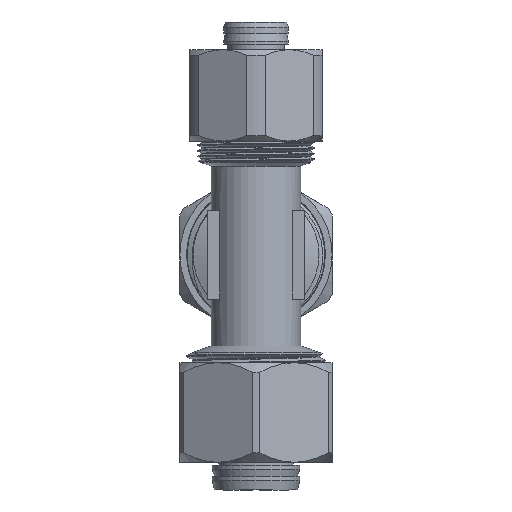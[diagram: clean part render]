
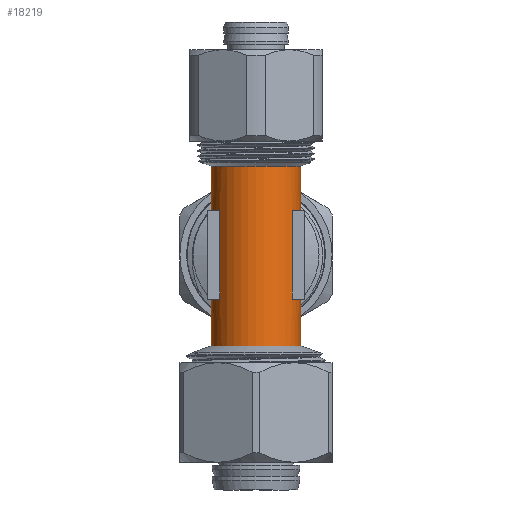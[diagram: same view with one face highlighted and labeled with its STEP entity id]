
A CAD part, front view. The second image highlights one B-rep face of the part: STEP entity #18219.
In plain terms, the highlighted cylindrical face has radius 8.1 mm (diameter 16.2 mm), a full revolution.
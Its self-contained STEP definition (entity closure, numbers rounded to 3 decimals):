
#183=ELLIPSE('',#19452,11.455,8.1);
#184=ELLIPSE('',#19453,11.455,8.1);
#185=ELLIPSE('',#19456,11.455,8.1);
#186=ELLIPSE('',#19457,11.455,8.1);
#2325=CYLINDRICAL_SURFACE('',#19451,8.1);
#2551=FACE_OUTER_BOUND('',#3611,.T.);
#3611=EDGE_LOOP('',(#12663,#12664,#12665,#12666,#12667,#12668,#12669,#12670,
#12671,#12672,#12673,#12674,#12675,#12676,#12677,#12678,#12679,#12680,#12681,
#12682,#12683,#12684,#12685,#12686));
#4803=LINE('',#24165,#5948);
#4807=LINE('',#24174,#5952);
#4815=LINE('',#24194,#5960);
#4818=LINE('',#24200,#5963);
#4825=LINE('',#24218,#5970);
#4828=LINE('',#24226,#5973);
#4847=LINE('',#24289,#5992);
#4848=LINE('',#24294,#5993);
#5948=VECTOR('',#20667,10.);
#5952=VECTOR('',#20673,10.);
#5960=VECTOR('',#20691,10.);
#5963=VECTOR('',#20696,10.);
#5970=VECTOR('',#20713,10.);
#5973=VECTOR('',#20720,10.);
#5992=VECTOR('',#20785,8.1);
#5993=VECTOR('',#20790,8.1);
#6997=CIRCLE('',#19362,8.1);
#6998=CIRCLE('',#19363,8.1);
#7012=CIRCLE('',#19417,8.1);
#7013=CIRCLE('',#19419,8.1);
#7014=CIRCLE('',#19423,8.1);
#7015=CIRCLE('',#19425,8.1);
#7018=CIRCLE('',#19431,8.1);
#7019=CIRCLE('',#19433,8.1);
#7026=CIRCLE('',#19454,8.1);
#7027=CIRCLE('',#19455,8.1);
#7483=VERTEX_POINT('',#23797);
#7484=VERTEX_POINT('',#23799);
#7570=VERTEX_POINT('',#24163);
#7571=VERTEX_POINT('',#24164);
#7574=VERTEX_POINT('',#24172);
#7575=VERTEX_POINT('',#24173);
#7578=VERTEX_POINT('',#24181);
#7580=VERTEX_POINT('',#24187);
#7582=VERTEX_POINT('',#24193);
#7584=VERTEX_POINT('',#24199);
#7586=VERTEX_POINT('',#24205);
#7588=VERTEX_POINT('',#24211);
#7590=VERTEX_POINT('',#24217);
#7593=VERTEX_POINT('',#24225);
#7596=VERTEX_POINT('',#24233);
#7599=VERTEX_POINT('',#24241);
#7614=VERTEX_POINT('',#24288);
#7615=VERTEX_POINT('',#24291);
#7616=VERTEX_POINT('',#24293);
#7617=VERTEX_POINT('',#24295);
#9428=EDGE_CURVE('',#7483,#7484,#6997,.T.);
#9429=EDGE_CURVE('',#7484,#7483,#6998,.T.);
#9556=EDGE_CURVE('',#7570,#7571,#4803,.T.);
#9560=EDGE_CURVE('',#7574,#7575,#4807,.T.);
#9564=EDGE_CURVE('',#7578,#7570,#7012,.T.);
#9567=EDGE_CURVE('',#7575,#7580,#7013,.T.);
#9570=EDGE_CURVE('',#7582,#7578,#4815,.T.);
#9573=EDGE_CURVE('',#7580,#7584,#4818,.T.);
#9576=EDGE_CURVE('',#7586,#7582,#7014,.T.);
#9579=EDGE_CURVE('',#7584,#7588,#7015,.T.);
#9582=EDGE_CURVE('',#7590,#7586,#4825,.T.);
#9586=EDGE_CURVE('',#7588,#7593,#4828,.T.);
#9590=EDGE_CURVE('',#7596,#7574,#7018,.T.);
#9594=EDGE_CURVE('',#7571,#7599,#7019,.T.);
#9618=EDGE_CURVE('',#7483,#7614,#4847,.T.);
#9619=EDGE_CURVE('',#7614,#7590,#183,.T.);
#9620=EDGE_CURVE('',#7599,#7615,#184,.T.);
#9621=EDGE_CURVE('',#7615,#7616,#4848,.T.);
#9622=EDGE_CURVE('',#7616,#7617,#7026,.T.);
#9623=EDGE_CURVE('',#7617,#7616,#7027,.T.);
#9624=EDGE_CURVE('',#7615,#7596,#185,.T.);
#9625=EDGE_CURVE('',#7593,#7614,#186,.T.);
#12663=ORIENTED_EDGE('',*,*,#9429,.F.);
#12664=ORIENTED_EDGE('',*,*,#9428,.F.);
#12665=ORIENTED_EDGE('',*,*,#9618,.T.);
#12666=ORIENTED_EDGE('',*,*,#9619,.T.);
#12667=ORIENTED_EDGE('',*,*,#9582,.T.);
#12668=ORIENTED_EDGE('',*,*,#9576,.T.);
#12669=ORIENTED_EDGE('',*,*,#9570,.T.);
#12670=ORIENTED_EDGE('',*,*,#9564,.T.);
#12671=ORIENTED_EDGE('',*,*,#9556,.T.);
#12672=ORIENTED_EDGE('',*,*,#9594,.T.);
#12673=ORIENTED_EDGE('',*,*,#9620,.T.);
#12674=ORIENTED_EDGE('',*,*,#9621,.T.);
#12675=ORIENTED_EDGE('',*,*,#9622,.T.);
#12676=ORIENTED_EDGE('',*,*,#9623,.T.);
#12677=ORIENTED_EDGE('',*,*,#9621,.F.);
#12678=ORIENTED_EDGE('',*,*,#9624,.T.);
#12679=ORIENTED_EDGE('',*,*,#9590,.T.);
#12680=ORIENTED_EDGE('',*,*,#9560,.T.);
#12681=ORIENTED_EDGE('',*,*,#9567,.T.);
#12682=ORIENTED_EDGE('',*,*,#9573,.T.);
#12683=ORIENTED_EDGE('',*,*,#9579,.T.);
#12684=ORIENTED_EDGE('',*,*,#9586,.T.);
#12685=ORIENTED_EDGE('',*,*,#9625,.T.);
#12686=ORIENTED_EDGE('',*,*,#9618,.F.);
#18219=ADVANCED_FACE('',(#2551),#2325,.T.);
#19362=AXIS2_PLACEMENT_3D('',#23800,#20464,#20465);
#19363=AXIS2_PLACEMENT_3D('',#23801,#20466,#20467);
#19417=AXIS2_PLACEMENT_3D('',#24182,#20679,#20680);
#19419=AXIS2_PLACEMENT_3D('',#24188,#20685,#20686);
#19423=AXIS2_PLACEMENT_3D('',#24206,#20701,#20702);
#19425=AXIS2_PLACEMENT_3D('',#24212,#20707,#20708);
#19431=AXIS2_PLACEMENT_3D('',#24234,#20727,#20728);
#19433=AXIS2_PLACEMENT_3D('',#24242,#20734,#20735);
#19451=AXIS2_PLACEMENT_3D('',#24287,#20783,#20784);
#19452=AXIS2_PLACEMENT_3D('',#24290,#20786,#20787);
#19453=AXIS2_PLACEMENT_3D('',#24292,#20788,#20789);
#19454=AXIS2_PLACEMENT_3D('',#24296,#20791,#20792);
#19455=AXIS2_PLACEMENT_3D('',#24297,#20793,#20794);
#19456=AXIS2_PLACEMENT_3D('',#24298,#20795,#20796);
#19457=AXIS2_PLACEMENT_3D('',#24299,#20797,#20798);
#20464=DIRECTION('center_axis',(0.,0.,1.));
#20465=DIRECTION('ref_axis',(1.,0.,0.));
#20466=DIRECTION('center_axis',(0.,0.,1.));
#20467=DIRECTION('ref_axis',(1.,0.,0.));
#20667=DIRECTION('',(0.,0.,1.));
#20673=DIRECTION('',(0.,0.,-1.));
#20679=DIRECTION('center_axis',(0.,0.,-1.));
#20680=DIRECTION('ref_axis',(0.,-1.,0.));
#20685=DIRECTION('center_axis',(0.,0.,-1.));
#20686=DIRECTION('ref_axis',(0.,-1.,0.));
#20691=DIRECTION('',(0.,0.,-1.));
#20696=DIRECTION('',(0.,0.,1.));
#20701=DIRECTION('center_axis',(0.,0.,1.));
#20702=DIRECTION('ref_axis',(0.,-1.,0.));
#20707=DIRECTION('center_axis',(0.,0.,1.));
#20708=DIRECTION('ref_axis',(0.,-1.,0.));
#20713=DIRECTION('',(0.,0.,1.));
#20720=DIRECTION('',(0.,0.,-1.));
#20727=DIRECTION('center_axis',(0.,0.,-1.));
#20728=DIRECTION('ref_axis',(0.,-1.,0.));
#20734=DIRECTION('center_axis',(0.,0.,-1.));
#20735=DIRECTION('ref_axis',(0.,-1.,0.));
#20783=DIRECTION('center_axis',(0.,0.,1.));
#20784=DIRECTION('ref_axis',(0.,-1.,0.));
#20785=DIRECTION('',(0.,0.,-1.));
#20786=DIRECTION('center_axis',(0.,-0.707,0.707));
#20787=DIRECTION('ref_axis',(0.,-0.707,-0.707));
#20788=DIRECTION('center_axis',(0.,-0.707,-0.707));
#20789=DIRECTION('ref_axis',(0.,0.707,-0.707));
#20790=DIRECTION('',(0.,0.,-1.));
#20791=DIRECTION('center_axis',(0.,0.,1.));
#20792=DIRECTION('ref_axis',(1.,0.,0.));
#20793=DIRECTION('center_axis',(0.,0.,1.));
#20794=DIRECTION('ref_axis',(1.,0.,0.));
#20795=DIRECTION('center_axis',(0.,-0.707,-0.707));
#20796=DIRECTION('ref_axis',(0.,0.707,-0.707));
#20797=DIRECTION('center_axis',(0.,-0.707,0.707));
#20798=DIRECTION('ref_axis',(0.,-0.707,-0.707));
#23797=CARTESIAN_POINT('',(0.,8.1,16.));
#23799=CARTESIAN_POINT('',(0.,-8.1,16.));
#23800=CARTESIAN_POINT('Origin',(0.,0.,16.));
#23801=CARTESIAN_POINT('Origin',(0.,0.,16.));
#24163=CARTESIAN_POINT('',(-6.571,4.736,-8.022));
#24164=CARTESIAN_POINT('',(-6.571,4.736,-4.772));
#24165=CARTESIAN_POINT('',(-6.571,4.736,-0.25));
#24172=CARTESIAN_POINT('',(6.571,4.736,-4.772));
#24173=CARTESIAN_POINT('',(6.571,4.736,-8.022));
#24174=CARTESIAN_POINT('',(6.571,4.736,-0.25));
#24181=CARTESIAN_POINT('',(-6.551,-4.764,-8.022));
#24182=CARTESIAN_POINT('Origin',(0.,0.,-8.022));
#24187=CARTESIAN_POINT('',(6.551,-4.764,-8.022));
#24188=CARTESIAN_POINT('Origin',(0.,0.,-8.022));
#24193=CARTESIAN_POINT('',(-6.551,-4.764,7.978));
#24194=CARTESIAN_POINT('',(-6.551,-4.764,-0.25));
#24199=CARTESIAN_POINT('',(6.551,-4.764,7.978));
#24200=CARTESIAN_POINT('',(6.551,-4.764,-0.25));
#24205=CARTESIAN_POINT('',(-6.571,4.736,7.978));
#24206=CARTESIAN_POINT('Origin',(0.,0.,7.978));
#24211=CARTESIAN_POINT('',(6.571,4.736,7.978));
#24212=CARTESIAN_POINT('Origin',(0.,0.,7.978));
#24217=CARTESIAN_POINT('',(-6.571,4.736,4.736));
#24218=CARTESIAN_POINT('',(-6.571,4.736,-0.25));
#24225=CARTESIAN_POINT('',(6.571,4.736,4.736));
#24226=CARTESIAN_POINT('',(6.571,4.736,-0.25));
#24233=CARTESIAN_POINT('',(6.545,4.772,-4.772));
#24234=CARTESIAN_POINT('Origin',(0.,0.,-4.772));
#24241=CARTESIAN_POINT('',(-6.545,4.772,-4.772));
#24242=CARTESIAN_POINT('Origin',(0.,0.,-4.772));
#24287=CARTESIAN_POINT('Origin',(0.,0.,-0.25));
#24288=CARTESIAN_POINT('',(0.,8.1,8.1));
#24289=CARTESIAN_POINT('',(0.,8.1,-0.25));
#24290=CARTESIAN_POINT('Origin',(0.,0.,0.));
#24291=CARTESIAN_POINT('',(0.,8.1,-8.1));
#24292=CARTESIAN_POINT('Origin',(0.,0.,0.));
#24293=CARTESIAN_POINT('',(0.,8.1,-16.5));
#24294=CARTESIAN_POINT('',(0.,8.1,-0.25));
#24295=CARTESIAN_POINT('',(0.,-8.1,-16.5));
#24296=CARTESIAN_POINT('Origin',(0.,0.,-16.5));
#24297=CARTESIAN_POINT('Origin',(0.,0.,-16.5));
#24298=CARTESIAN_POINT('Origin',(0.,0.,0.));
#24299=CARTESIAN_POINT('Origin',(0.,0.,0.));
